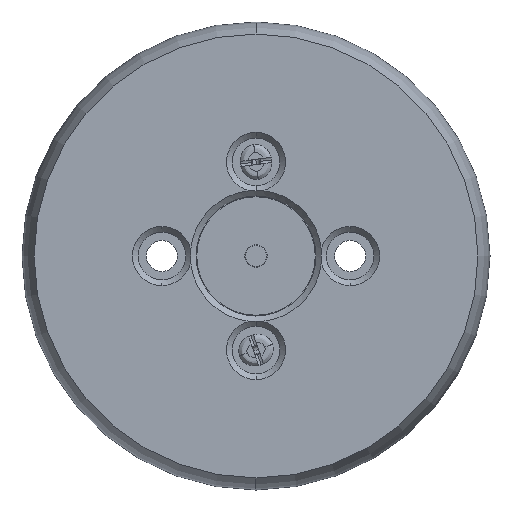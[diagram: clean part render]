
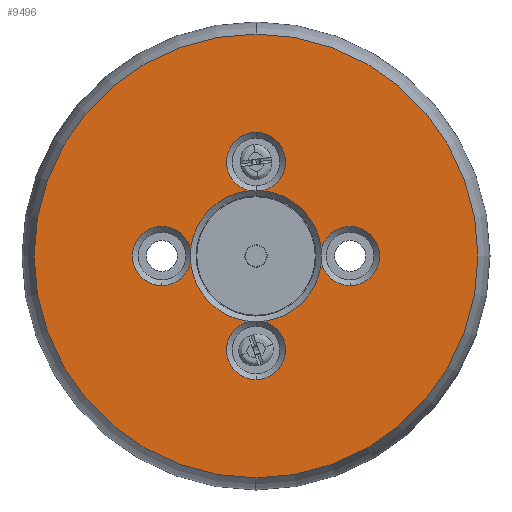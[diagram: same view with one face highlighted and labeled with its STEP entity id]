
A CAD part, front view. The second image highlights one B-rep face of the part: STEP entity #9496.
In plain terms, the highlighted planar face has unit normal (0, -1, 0) as drawn and (0, 1, 0) by its records, which use the part's own axes.
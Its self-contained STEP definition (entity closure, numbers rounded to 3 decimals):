
#84 = EDGE_CURVE ( 'NONE', #6698, #3810, #3349, .T. ) ;
#363 = CARTESIAN_POINT ( 'NONE',  ( 8.817, 3.05, 0.913 ) ) ;
#425 = DIRECTION ( 'NONE',  ( 0., 0., 1. ) ) ;
#504 = AXIS2_PLACEMENT_3D ( 'NONE', #4254, #7915, #2603 ) ;
#543 = DIRECTION ( 'NONE',  ( 0., 0., 1. ) ) ;
#591 = DIRECTION ( 'NONE',  ( 0., 0., 1. ) ) ;
#615 = DIRECTION ( 'NONE',  ( 0., 0., 1. ) ) ;
#692 = CIRCLE ( 'NONE', #9405, 3.989 ) ;
#709 = CARTESIAN_POINT ( 'NONE',  ( 12.7, 3.05, 0. ) ) ;
#951 = DIRECTION ( 'NONE',  ( 0., 0., 1. ) ) ;
#966 = VERTEX_POINT ( 'NONE', #363 ) ;
#1080 = ORIENTED_EDGE ( 'NONE', *, *, #10976, .F. ) ;
#1171 = DIRECTION ( 'NONE',  ( 0., 1., 0. ) ) ;
#1260 = VERTEX_POINT ( 'NONE', #9333 ) ;
#1261 = CARTESIAN_POINT ( 'NONE',  ( 12.7, 3.05, 0. ) ) ;
#1310 = CARTESIAN_POINT ( 'NONE',  ( 0., 3.05, 16.689 ) ) ;
#1312 = DIRECTION ( 'NONE',  ( 0., 0., 1. ) ) ;
#1416 = DIRECTION ( 'NONE',  ( 0., 1., 0. ) ) ;
#1609 = DIRECTION ( 'NONE',  ( 0., 0., 1. ) ) ;
#1768 = ORIENTED_EDGE ( 'NONE', *, *, #2176, .F. ) ;
#1804 = DIRECTION ( 'NONE',  ( 0., 1., 0. ) ) ;
#1815 = EDGE_LOOP ( 'NONE', ( #10016, #1080, #2077, #9666, #1768, #2112, #9310, #5841, #9614, #8920, #9684, #9774, #10928, #11163 ) ) ;
#1902 = CARTESIAN_POINT ( 'NONE',  ( 0., 3.05, -16.689 ) ) ;
#1964 = CARTESIAN_POINT ( 'NONE',  ( 0., 3.05, 0. ) ) ;
#2044 = CIRCLE ( 'NONE', #3494, 8.864 ) ;
#2077 = ORIENTED_EDGE ( 'NONE', *, *, #2772, .F. ) ;
#2096 = CARTESIAN_POINT ( 'NONE',  ( 12.7, 3.05, 0. ) ) ;
#2112 = ORIENTED_EDGE ( 'NONE', *, *, #3505, .F. ) ;
#2123 = CARTESIAN_POINT ( 'NONE',  ( -0.913, 3.05, -8.817 ) ) ;
#2176 = EDGE_CURVE ( 'NONE', #6098, #7699, #7964, .T. ) ;
#2247 = DIRECTION ( 'NONE',  ( 0., 1., 0. ) ) ;
#2354 = DIRECTION ( 'NONE',  ( 0., 0., 1. ) ) ;
#2442 = EDGE_CURVE ( 'NONE', #3448, #6489, #10867, .T. ) ;
#2460 = CARTESIAN_POINT ( 'NONE',  ( -0.913, 3.05, 8.817 ) ) ;
#2603 = DIRECTION ( 'NONE',  ( 0., 0., 1. ) ) ;
#2679 = AXIS2_PLACEMENT_3D ( 'NONE', #8684, #1804, #951 ) ;
#2772 = EDGE_CURVE ( 'NONE', #5608, #10408, #692, .T. ) ;
#2837 = CIRCLE ( 'NONE', #4095, 8.864 ) ;
#2882 = DIRECTION ( 'NONE',  ( 0., 0., 1. ) ) ;
#2889 = DIRECTION ( 'NONE',  ( 0., 1., 0. ) ) ;
#2960 = EDGE_CURVE ( 'NONE', #7405, #4127, #6875, .T. ) ;
#3038 = PLANE ( 'NONE',  #10924 ) ;
#3071 = CARTESIAN_POINT ( 'NONE',  ( -8.817, 3.05, 0.913 ) ) ;
#3216 = DIRECTION ( 'NONE',  ( 0., 1., 0. ) ) ;
#3264 = CARTESIAN_POINT ( 'NONE',  ( 0., 3.05, -12.7 ) ) ;
#3311 = DIRECTION ( 'NONE',  ( 0., 0., 1. ) ) ;
#3349 = CIRCLE ( 'NONE', #9719, 3.989 ) ;
#3360 = CARTESIAN_POINT ( 'NONE',  ( 0., 3.05, 0. ) ) ;
#3365 = AXIS2_PLACEMENT_3D ( 'NONE', #4511, #3216, #2354 ) ;
#3392 = AXIS2_PLACEMENT_3D ( 'NONE', #9092, #1416, #5685 ) ;
#3448 = VERTEX_POINT ( 'NONE', #2460 ) ;
#3494 = AXIS2_PLACEMENT_3D ( 'NONE', #10691, #7231, #2882 ) ;
#3505 = EDGE_CURVE ( 'NONE', #3810, #6098, #4570, .T. ) ;
#3550 = VERTEX_POINT ( 'NONE', #11171 ) ;
#3674 = FACE_BOUND ( 'NONE', #1815, .T. ) ;
#3810 = VERTEX_POINT ( 'NONE', #2123 ) ;
#3835 = CARTESIAN_POINT ( 'NONE',  ( -12.7, 3.05, 0. ) ) ;
#3862 = CARTESIAN_POINT ( 'NONE',  ( 0., 3.05, 29.97 ) ) ;
#4006 = CARTESIAN_POINT ( 'NONE',  ( -12.7, 3.05, 0. ) ) ;
#4095 = AXIS2_PLACEMENT_3D ( 'NONE', #3360, #10307, #1609 ) ;
#4127 = VERTEX_POINT ( 'NONE', #6568 ) ;
#4254 = CARTESIAN_POINT ( 'NONE',  ( -12.7, 3.05, 0. ) ) ;
#4511 = CARTESIAN_POINT ( 'NONE',  ( 0., 3.05, 0. ) ) ;
#4550 = CARTESIAN_POINT ( 'NONE',  ( 0., 3.05, 0. ) ) ;
#4570 = CIRCLE ( 'NONE', #5270, 8.864 ) ;
#4602 = CARTESIAN_POINT ( 'NONE',  ( 0.913, 3.05, 8.817 ) ) ;
#4718 = DIRECTION ( 'NONE',  ( 0., 1., 0. ) ) ;
#4936 = DIRECTION ( 'NONE',  ( 0., 1., 0. ) ) ;
#5153 = VERTEX_POINT ( 'NONE', #5619 ) ;
#5270 = AXIS2_PLACEMENT_3D ( 'NONE', #11119, #2247, #543 ) ;
#5380 = CIRCLE ( 'NONE', #10659, 3.989 ) ;
#5412 = EDGE_CURVE ( 'NONE', #1260, #5153, #6562, .T. ) ;
#5432 = DIRECTION ( 'NONE',  ( 0., 0., 1. ) ) ;
#5608 = VERTEX_POINT ( 'NONE', #8844 ) ;
#5619 = CARTESIAN_POINT ( 'NONE',  ( 8.817, 3.05, -0.913 ) ) ;
#5685 = DIRECTION ( 'NONE',  ( 0., 0., 1. ) ) ;
#5745 = CIRCLE ( 'NONE', #10107, 29.97 ) ;
#5841 = ORIENTED_EDGE ( 'NONE', *, *, #9077, .F. ) ;
#5871 = EDGE_CURVE ( 'NONE', #7699, #5608, #6299, .T. ) ;
#6041 = CARTESIAN_POINT ( 'NONE',  ( -12.7, 3.05, -3.989 ) ) ;
#6098 = VERTEX_POINT ( 'NONE', #7033 ) ;
#6299 = CIRCLE ( 'NONE', #6478, 3.989 ) ;
#6458 = EDGE_CURVE ( 'NONE', #6489, #10761, #8309, .T. ) ;
#6467 = CIRCLE ( 'NONE', #3365, 8.864 ) ;
#6478 = AXIS2_PLACEMENT_3D ( 'NONE', #3835, #8225, #425 ) ;
#6489 = VERTEX_POINT ( 'NONE', #1310 ) ;
#6562 = CIRCLE ( 'NONE', #6933, 3.989 ) ;
#6568 = CARTESIAN_POINT ( 'NONE',  ( 0., 3.05, -29.97 ) ) ;
#6635 = DIRECTION ( 'NONE',  ( 0., 0., 1. ) ) ;
#6698 = VERTEX_POINT ( 'NONE', #1902 ) ;
#6875 = CIRCLE ( 'NONE', #7787, 29.97 ) ;
#6933 = AXIS2_PLACEMENT_3D ( 'NONE', #709, #10153, #9248 ) ;
#7033 = CARTESIAN_POINT ( 'NONE',  ( -8.817, 3.05, -0.913 ) ) ;
#7159 = FACE_OUTER_BOUND ( 'NONE', #8803, .T. ) ;
#7222 = EDGE_CURVE ( 'NONE', #966, #3550, #5380, .T. ) ;
#7231 = DIRECTION ( 'NONE',  ( 0., 1., 0. ) ) ;
#7319 = CIRCLE ( 'NONE', #8570, 3.989 ) ;
#7405 = VERTEX_POINT ( 'NONE', #3862 ) ;
#7443 = EDGE_CURVE ( 'NONE', #4127, #7405, #5745, .T. ) ;
#7454 = CARTESIAN_POINT ( 'NONE',  ( 0.913, 3.05, -8.817 ) ) ;
#7504 = DIRECTION ( 'NONE',  ( 0., 1., 0. ) ) ;
#7523 = ORIENTED_EDGE ( 'NONE', *, *, #2960, .T. ) ;
#7550 = DIRECTION ( 'NONE',  ( 0., 1., 0. ) ) ;
#7555 = CARTESIAN_POINT ( 'NONE',  ( 0., 3.05, -12.7 ) ) ;
#7651 = CARTESIAN_POINT ( 'NONE',  ( 0., 3.05, 0. ) ) ;
#7699 = VERTEX_POINT ( 'NONE', #6041 ) ;
#7721 = ORIENTED_EDGE ( 'NONE', *, *, #7443, .T. ) ;
#7759 = EDGE_CURVE ( 'NONE', #10761, #966, #2837, .T. ) ;
#7787 = AXIS2_PLACEMENT_3D ( 'NONE', #7651, #11114, #3311 ) ;
#7915 = DIRECTION ( 'NONE',  ( 0., 1., 0. ) ) ;
#7964 = CIRCLE ( 'NONE', #504, 3.989 ) ;
#8225 = DIRECTION ( 'NONE',  ( 0., 1., 0. ) ) ;
#8309 = CIRCLE ( 'NONE', #3392, 3.989 ) ;
#8350 = DIRECTION ( 'NONE',  ( 0., 1., 0. ) ) ;
#8570 = AXIS2_PLACEMENT_3D ( 'NONE', #1261, #4936, #615 ) ;
#8684 = CARTESIAN_POINT ( 'NONE',  ( 0., 3.05, 12.7 ) ) ;
#8803 = EDGE_LOOP ( 'NONE', ( #7523, #7721 ) ) ;
#8844 = CARTESIAN_POINT ( 'NONE',  ( -12.7, 3.05, 3.989 ) ) ;
#8920 = ORIENTED_EDGE ( 'NONE', *, *, #5412, .F. ) ;
#8973 = VERTEX_POINT ( 'NONE', #7454 ) ;
#9077 = EDGE_CURVE ( 'NONE', #8973, #6698, #10359, .T. ) ;
#9092 = CARTESIAN_POINT ( 'NONE',  ( 0., 3.05, 12.7 ) ) ;
#9248 = DIRECTION ( 'NONE',  ( 0., 0., 1. ) ) ;
#9310 = ORIENTED_EDGE ( 'NONE', *, *, #84, .F. ) ;
#9333 = CARTESIAN_POINT ( 'NONE',  ( 12.7, 3.05, -3.989 ) ) ;
#9405 = AXIS2_PLACEMENT_3D ( 'NONE', #4006, #7550, #591 ) ;
#9496 = ADVANCED_FACE ( 'NONE', ( #7159, #3674 ), #3038, .T. ) ;
#9614 = ORIENTED_EDGE ( 'NONE', *, *, #11250, .F. ) ;
#9666 = ORIENTED_EDGE ( 'NONE', *, *, #5871, .F. ) ;
#9684 = ORIENTED_EDGE ( 'NONE', *, *, #10535, .F. ) ;
#9719 = AXIS2_PLACEMENT_3D ( 'NONE', #3264, #8350, #10859 ) ;
#9774 = ORIENTED_EDGE ( 'NONE', *, *, #7222, .F. ) ;
#10016 = ORIENTED_EDGE ( 'NONE', *, *, #2442, .F. ) ;
#10107 = AXIS2_PLACEMENT_3D ( 'NONE', #4550, #2889, #10807 ) ;
#10153 = DIRECTION ( 'NONE',  ( 0., 1., 0. ) ) ;
#10170 = AXIS2_PLACEMENT_3D ( 'NONE', #7555, #7504, #6635 ) ;
#10307 = DIRECTION ( 'NONE',  ( 0., 1., 0. ) ) ;
#10359 = CIRCLE ( 'NONE', #10170, 3.989 ) ;
#10408 = VERTEX_POINT ( 'NONE', #3071 ) ;
#10535 = EDGE_CURVE ( 'NONE', #3550, #1260, #7319, .T. ) ;
#10659 = AXIS2_PLACEMENT_3D ( 'NONE', #2096, #4718, #1312 ) ;
#10691 = CARTESIAN_POINT ( 'NONE',  ( 0., 3.05, 0. ) ) ;
#10761 = VERTEX_POINT ( 'NONE', #4602 ) ;
#10807 = DIRECTION ( 'NONE',  ( 0., 0., 1. ) ) ;
#10859 = DIRECTION ( 'NONE',  ( 0., 0., 1. ) ) ;
#10867 = CIRCLE ( 'NONE', #2679, 3.989 ) ;
#10924 = AXIS2_PLACEMENT_3D ( 'NONE', #1964, #1171, #5432 ) ;
#10928 = ORIENTED_EDGE ( 'NONE', *, *, #7759, .F. ) ;
#10976 = EDGE_CURVE ( 'NONE', #10408, #3448, #2044, .T. ) ;
#11114 = DIRECTION ( 'NONE',  ( 0., 1., 0. ) ) ;
#11119 = CARTESIAN_POINT ( 'NONE',  ( 0., 3.05, 0. ) ) ;
#11163 = ORIENTED_EDGE ( 'NONE', *, *, #6458, .F. ) ;
#11171 = CARTESIAN_POINT ( 'NONE',  ( 12.7, 3.05, 3.989 ) ) ;
#11250 = EDGE_CURVE ( 'NONE', #5153, #8973, #6467, .T. ) ;
